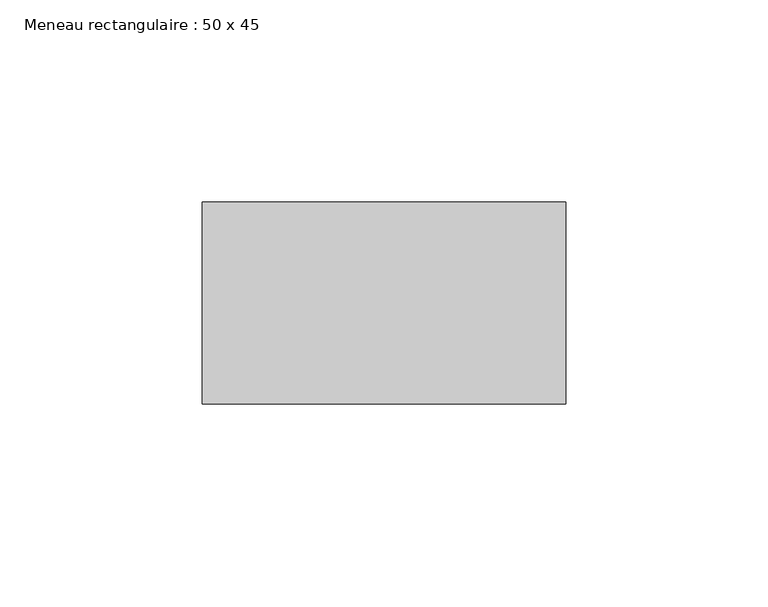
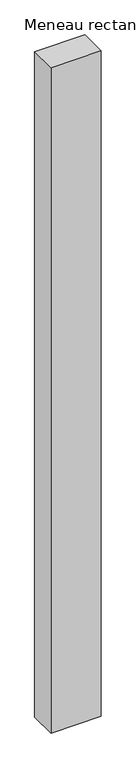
"""IFC4 building model written with IfcOpenShell, lengths in millimetres: member geometry, Meneau rectangulaire : 50 x 45."""

from ifc_helpers import new_model, si_unit, frame, origin, place, context, project, spatial, polyline, outline, extrude, source, transform, mapped, element, save


def meneau_rectangulaire_50_x_45_dc38a977(model_context):
    return source(origin(), model_context, "Body", "SweptSolid", [
        extrude(outline(polyline([(0.0, 0.0), (0.0, -50.0), (-90.0, -50.0), (-90.0, 0.0), (0.0, 0.0)])), frame((0.0, 0.0, -1260.0), z_axis=(0.0, 0.0, 1.0), x_axis=(1.0, 0.0, 0.0)), (0.0, 0.0, 1.0), 1260.0),
    ])


if __name__ == "__main__":
    model = new_model("IFC4")
    model_context = context("Model", 3, world=origin())
    ifc_project = project(units=[si_unit("LENGTHUNIT", "METRE", prefix="MILLI")], contexts=[model_context])
    site = spatial("IfcSite", under=ifc_project)
    building = spatial("IfcBuilding", under=site)
    placement = place(None, origin())
    meneau_rectangulaire_50_x_45_shape = meneau_rectangulaire_50_x_45_dc38a977(model_context)
    element("IfcMember", 1, ObjectType="Meneau rectangulaire : 50 x 45", at=placement, inside=building, context=model_context, shape_type="MappedRepresentation", body=[
        mapped(meneau_rectangulaire_50_x_45_shape, transform((0.0, 0.0, 0.0), x_axis=(1.0, 0.0, 0.0), y_axis=(0.0, 1.0, 0.0), z_axis=(0.0, 0.0, 1.0))),
    ])
    save(model, "model.ifc")
